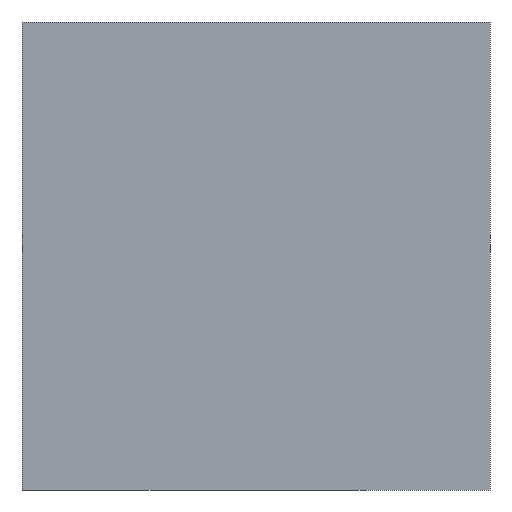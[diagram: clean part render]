
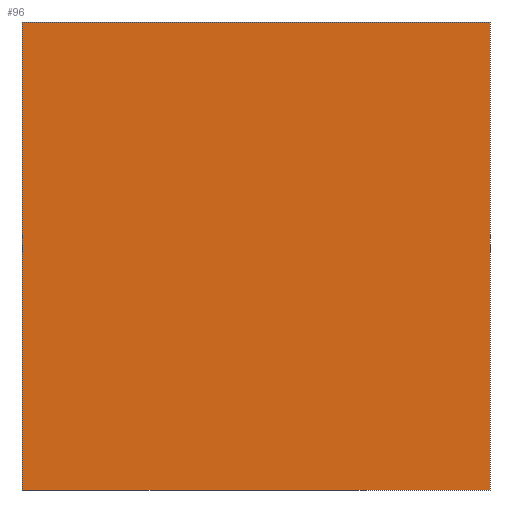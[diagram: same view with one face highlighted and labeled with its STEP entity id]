
A CAD part, left-side view. The second image highlights one B-rep face of the part: STEP entity #96.
In plain terms, the highlighted planar face has unit normal (-1, 0, 0).
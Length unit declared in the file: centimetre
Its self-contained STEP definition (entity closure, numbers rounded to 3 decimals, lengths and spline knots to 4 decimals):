
#28 = VERTEX_POINT ( 'NONE', #512 ) ;
#29 = VECTOR ( 'NONE', #412, 100. ) ;
#54 = CARTESIAN_POINT ( 'NONE',  ( 0., 1000., 0. ) ) ;
#71 = DIRECTION ( 'NONE',  ( 0., 0., -1. ) ) ;
#87 = VECTOR ( 'NONE', #184, 100. ) ;
#96 = ADVANCED_FACE ( 'NONE', ( #107 ), #621, .F. ) ;
#98 = EDGE_LOOP ( 'NONE', ( #209, #609, #666, #144 ) ) ;
#107 = FACE_OUTER_BOUND ( 'NONE', #98, .T. ) ;
#127 = EDGE_CURVE ( 'NONE', #377, #28, #516, .T. ) ;
#139 = VERTEX_POINT ( 'NONE', #287 ) ;
#144 = ORIENTED_EDGE ( 'NONE', *, *, #218, .T. ) ;
#184 = DIRECTION ( 'NONE',  ( 0., -1., 0. ) ) ;
#191 = CARTESIAN_POINT ( 'NONE',  ( 0., 1000., 1000. ) ) ;
#209 = ORIENTED_EDGE ( 'NONE', *, *, #437, .T. ) ;
#218 = EDGE_CURVE ( 'NONE', #377, #139, #361, .T. ) ;
#220 = CARTESIAN_POINT ( 'NONE',  ( 0., 1000., 1000. ) ) ;
#226 = LINE ( 'NONE', #54, #702 ) ;
#238 = DIRECTION ( 'NONE',  ( 0., 0., -1. ) ) ;
#287 = CARTESIAN_POINT ( 'NONE',  ( 0., 1000., 0. ) ) ;
#291 = CARTESIAN_POINT ( 'NONE',  ( 0., 1000., 1000. ) ) ;
#302 = VECTOR ( 'NONE', #71, 100. ) ;
#350 = LINE ( 'NONE', #730, #29 ) ;
#361 = LINE ( 'NONE', #191, #302 ) ;
#377 = VERTEX_POINT ( 'NONE', #503 ) ;
#412 = DIRECTION ( 'NONE',  ( 0., 0., -1. ) ) ;
#422 = CARTESIAN_POINT ( 'NONE',  ( 0., 0., 0. ) ) ;
#437 = EDGE_CURVE ( 'NONE', #139, #720, #226, .T. ) ;
#503 = CARTESIAN_POINT ( 'NONE',  ( 0., 1000., 1000. ) ) ;
#512 = CARTESIAN_POINT ( 'NONE',  ( 0., 0., 1000. ) ) ;
#513 = DIRECTION ( 'NONE',  ( 0., -1., 0. ) ) ;
#516 = LINE ( 'NONE', #220, #87 ) ;
#607 = EDGE_CURVE ( 'NONE', #28, #720, #350, .T. ) ;
#609 = ORIENTED_EDGE ( 'NONE', *, *, #607, .F. ) ;
#621 = PLANE ( 'NONE',  #725 ) ;
#666 = ORIENTED_EDGE ( 'NONE', *, *, #127, .F. ) ;
#702 = VECTOR ( 'NONE', #513, 100. ) ;
#720 = VERTEX_POINT ( 'NONE', #422 ) ;
#725 = AXIS2_PLACEMENT_3D ( 'NONE', #291, #732, #238 ) ;
#730 = CARTESIAN_POINT ( 'NONE',  ( 0., 0., 1000. ) ) ;
#732 = DIRECTION ( 'NONE',  ( 1., 0., 0. ) ) ;
